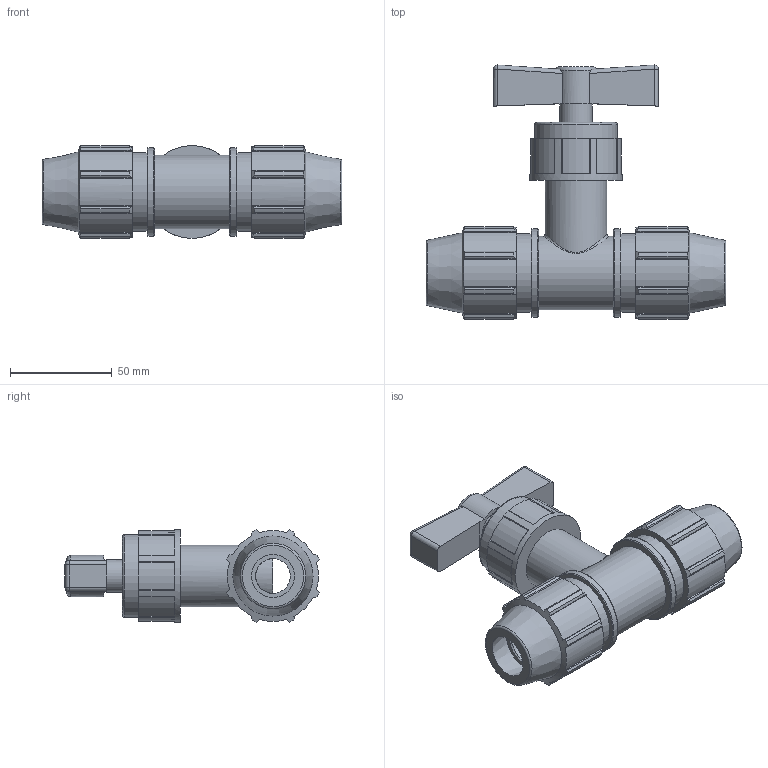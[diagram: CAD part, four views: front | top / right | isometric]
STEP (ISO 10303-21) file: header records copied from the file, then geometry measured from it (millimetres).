
FILE_DESCRIPTION(/* description */ ('PLASSON COMPRESSION STOPTAP 1/2'''' - 1/2'''''),/* implementation_level */ '2;1');
FILE_NAME(/* name */ 'C:\Dropbox\KIMPROJECTS-Inventor 2019\99-16-3568-Processing Inch\ASTM Compression 2021\0340M0\0340M005.ipt.stp',/* time_stamp */ '2021-08-26T12:28:13+03:00',/* author */ ('KIM'),/* organization */ (''),/* preprocessor_version */ 'ST-DEVELOPER v17.2',/* originating_system */ 'Autodesk Inventor 2019',/* authorisation */ '');
FILE_SCHEMA (('AUTOMOTIVE_DESIGN { 1 0 10303 214 3 1 1 }'));
Length unit declared in the file: inch
Products named in the file (1): 0340M005
Bounding box: 147.07 x 124.59 x 45.49 mm (x, y, z)
Volume: 226985.4 mm3; surface area: 47851.8 mm2
Topology: 1 solids, 1 shells, 235 faces, 673 edges, 456 vertices
Faces by surface type: plane 132, cylinder 66, cone 24, torus 8, sphere 4, bspline 1
Full cylindrical faces by diameter (mm): 16.175 x1, 16.96 x1, 21.2 x2, 30.328 x1, 36.005 x1, 38.405 x2, 40.437 x1, 43.205 x2, 45.491 x1
Entity records: 8296 total; most frequent: CARTESIAN_POINT 1804, ORIENTED_EDGE 1348, DIRECTION 1297, EDGE_CURVE 674, AXIS2_PLACEMENT_3D 467, VERTEX_POINT 457, LINE 363, VECTOR 363
